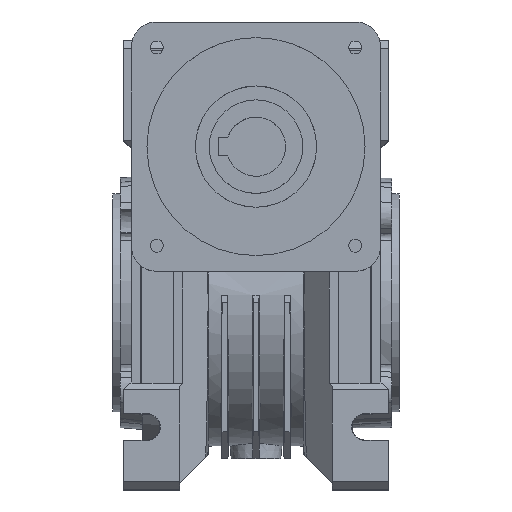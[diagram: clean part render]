
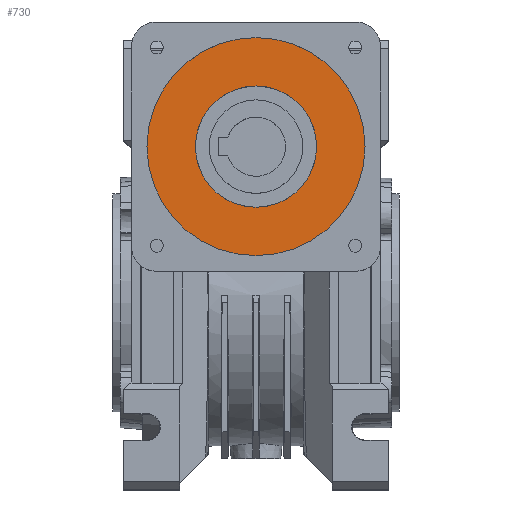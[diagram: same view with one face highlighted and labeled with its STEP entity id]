
A CAD part, top view. The second image highlights one B-rep face of the part: STEP entity #730.
In plain terms, the highlighted planar face has unit normal (0, 0, 1).
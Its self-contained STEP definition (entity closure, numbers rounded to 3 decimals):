
#730 = ADVANCED_FACE( '', ( #2120, #2121 ), #2122, .F. );
#2120 = FACE_BOUND( '', #4263, .T. );
#2121 = FACE_OUTER_BOUND( '', #4264, .T. );
#2122 = PLANE( '', #4265 );
#4263 = EDGE_LOOP( '', ( #6898 ) );
#4264 = EDGE_LOOP( '', ( #6899 ) );
#4265 = AXIS2_PLACEMENT_3D( '', #6900, #6901, #6902 );
#6898 = ORIENTED_EDGE( '', *, *, #13234, .T. );
#6899 = ORIENTED_EDGE( '', *, *, #13235, .F. );
#6900 = CARTESIAN_POINT( '', ( 0., 0., 12.9 ) );
#6901 = DIRECTION( '', ( 0., 0., -1. ) );
#6902 = DIRECTION( '', ( 0., 1., 0. ) );
#13234 = EDGE_CURVE( '', #15832, #15832, #15833, .T. );
#13235 = EDGE_CURVE( '', #15834, #15834, #15835, .T. );
#15832 = VERTEX_POINT( '', #19674 );
#15833 = CIRCLE( '', #19675, 19.467 );
#15834 = VERTEX_POINT( '', #19676 );
#15835 = CIRCLE( '', #19677, 35. );
#19674 = CARTESIAN_POINT( '', ( 0., 19.467, 12.9 ) );
#19675 = AXIS2_PLACEMENT_3D( '', #26749, #26750, #26751 );
#19676 = CARTESIAN_POINT( '', ( 0., 35., 12.9 ) );
#19677 = AXIS2_PLACEMENT_3D( '', #26752, #26753, #26754 );
#26749 = CARTESIAN_POINT( '', ( 0., 0., 12.9 ) );
#26750 = DIRECTION( '', ( 0., 0., -1. ) );
#26751 = DIRECTION( '', ( 0., 1., 0. ) );
#26752 = CARTESIAN_POINT( '', ( 0., 0., 12.9 ) );
#26753 = DIRECTION( '', ( 0., 0., -1. ) );
#26754 = DIRECTION( '', ( 0., 1., 0. ) );
